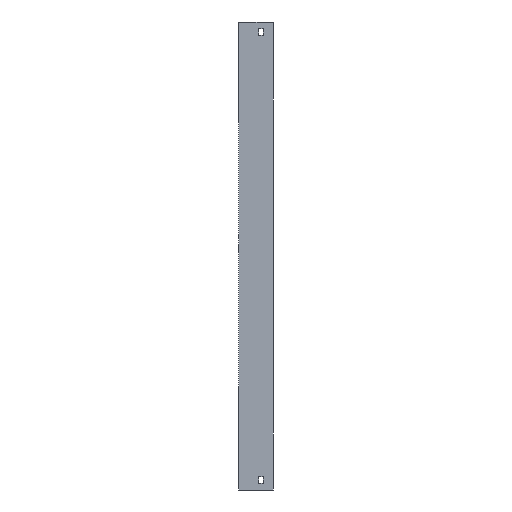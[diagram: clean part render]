
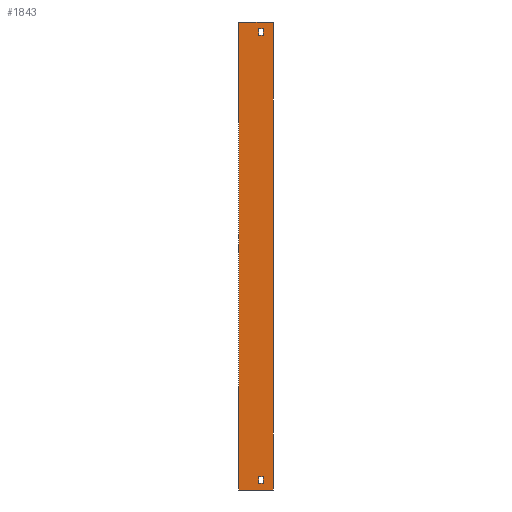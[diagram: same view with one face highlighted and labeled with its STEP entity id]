
A CAD part, left-side view. The second image highlights one B-rep face of the part: STEP entity #1843.
In plain terms, the highlighted planar face has unit normal (-1, 0, 0).
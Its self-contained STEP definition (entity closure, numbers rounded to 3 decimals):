
#22 = CARTESIAN_POINT ( 'NONE',  ( -504., 52., 50. ) ) ;
#23 = LINE ( 'NONE', #1090, #847 ) ;
#42 = VERTEX_POINT ( 'NONE', #65 ) ;
#65 = CARTESIAN_POINT ( 'NONE',  ( -504., 0., -654. ) ) ;
#91 = LINE ( 'NONE', #1545, #1147 ) ;
#92 = CARTESIAN_POINT ( 'NONE',  ( -504., 22., -634. ) ) ;
#109 = VECTOR ( 'NONE', #319, 1000. ) ;
#133 = CARTESIAN_POINT ( 'NONE',  ( -504., 52., -654. ) ) ;
#153 = LINE ( 'NONE', #1669, #1065 ) ;
#198 = DIRECTION ( 'NONE',  ( 0., 0., 1. ) ) ;
#235 = DIRECTION ( 'NONE',  ( 0., 1., 0. ) ) ;
#289 = CARTESIAN_POINT ( 'NONE',  ( -504., 22., -644. ) ) ;
#296 = LINE ( 'NONE', #572, #939 ) ;
#304 = EDGE_CURVE ( 'NONE', #575, #866, #91, .T. ) ;
#305 = CARTESIAN_POINT ( 'NONE',  ( -504., 22., -644. ) ) ;
#318 = AXIS2_PLACEMENT_3D ( 'NONE', #1389, #1725, #514 ) ;
#319 = DIRECTION ( 'NONE',  ( 0., 0., 1. ) ) ;
#320 = EDGE_CURVE ( 'NONE', #415, #42, #1573, .T. ) ;
#342 = VECTOR ( 'NONE', #1185, 1000. ) ;
#344 = FACE_BOUND ( 'NONE', #1521, .T. ) ;
#366 = ORIENTED_EDGE ( 'NONE', *, *, #932, .F. ) ;
#388 = CARTESIAN_POINT ( 'NONE',  ( -504., 22., -644. ) ) ;
#391 = CARTESIAN_POINT ( 'NONE',  ( -504., 22., 30. ) ) ;
#415 = VERTEX_POINT ( 'NONE', #892 ) ;
#425 = ORIENTED_EDGE ( 'NONE', *, *, #1315, .T. ) ;
#429 = VERTEX_POINT ( 'NONE', #782 ) ;
#430 = CARTESIAN_POINT ( 'NONE',  ( -504., 15., -634. ) ) ;
#463 = DIRECTION ( 'NONE',  ( 0., 0., 1. ) ) ;
#468 = ORIENTED_EDGE ( 'NONE', *, *, #484, .T. ) ;
#469 = EDGE_LOOP ( 'NONE', ( #1063, #1312, #1663, #917 ) ) ;
#482 = FACE_BOUND ( 'NONE', #469, .T. ) ;
#484 = EDGE_CURVE ( 'NONE', #655, #877, #153, .T. ) ;
#491 = EDGE_CURVE ( 'NONE', #429, #1624, #941, .T. ) ;
#514 = DIRECTION ( 'NONE',  ( 0., 0., -1. ) ) ;
#572 = CARTESIAN_POINT ( 'NONE',  ( -504., 22., -634. ) ) ;
#573 = LINE ( 'NONE', #289, #342 ) ;
#575 = VERTEX_POINT ( 'NONE', #1576 ) ;
#653 = VERTEX_POINT ( 'NONE', #1916 ) ;
#655 = VERTEX_POINT ( 'NONE', #1178 ) ;
#697 = LINE ( 'NONE', #1262, #1653 ) ;
#756 = ORIENTED_EDGE ( 'NONE', *, *, #1608, .T. ) ;
#761 = DIRECTION ( 'NONE',  ( 0., 0., -1. ) ) ;
#782 = CARTESIAN_POINT ( 'NONE',  ( -504., 52., 50. ) ) ;
#835 = ORIENTED_EDGE ( 'NONE', *, *, #1444, .T. ) ;
#847 = VECTOR ( 'NONE', #1824, 1000. ) ;
#866 = VERTEX_POINT ( 'NONE', #430 ) ;
#872 = CARTESIAN_POINT ( 'NONE',  ( -504., 15., 30. ) ) ;
#877 = VERTEX_POINT ( 'NONE', #872 ) ;
#892 = CARTESIAN_POINT ( 'NONE',  ( -504., 52., -654. ) ) ;
#917 = ORIENTED_EDGE ( 'NONE', *, *, #304, .F. ) ;
#921 = CARTESIAN_POINT ( 'NONE',  ( -504., 22., 40. ) ) ;
#932 = EDGE_CURVE ( 'NONE', #415, #429, #1182, .T. ) ;
#939 = VECTOR ( 'NONE', #1031, 1000. ) ;
#941 = LINE ( 'NONE', #22, #1646 ) ;
#948 = EDGE_CURVE ( 'NONE', #866, #1351, #296, .T. ) ;
#949 = PLANE ( 'NONE',  #318 ) ;
#967 = DIRECTION ( 'NONE',  ( 0., -1., 0. ) ) ;
#1014 = ORIENTED_EDGE ( 'NONE', *, *, #320, .T. ) ;
#1031 = DIRECTION ( 'NONE',  ( 0., 1., 0. ) ) ;
#1063 = ORIENTED_EDGE ( 'NONE', *, *, #1209, .F. ) ;
#1065 = VECTOR ( 'NONE', #761, 1000. ) ;
#1073 = DIRECTION ( 'NONE',  ( 0., 0., 1. ) ) ;
#1090 = CARTESIAN_POINT ( 'NONE',  ( -504., 22., 40. ) ) ;
#1147 = VECTOR ( 'NONE', #198, 1000. ) ;
#1178 = CARTESIAN_POINT ( 'NONE',  ( -504., 15., 40. ) ) ;
#1182 = LINE ( 'NONE', #133, #1310 ) ;
#1185 = DIRECTION ( 'NONE',  ( 0., 0., -1. ) ) ;
#1209 = EDGE_CURVE ( 'NONE', #1437, #575, #1634, .T. ) ;
#1228 = FACE_OUTER_BOUND ( 'NONE', #1709, .T. ) ;
#1237 = LINE ( 'NONE', #1835, #1462 ) ;
#1245 = CARTESIAN_POINT ( 'NONE',  ( -504., 52., -654. ) ) ;
#1262 = CARTESIAN_POINT ( 'NONE',  ( -504., 22., 30. ) ) ;
#1310 = VECTOR ( 'NONE', #1073, 1000. ) ;
#1312 = ORIENTED_EDGE ( 'NONE', *, *, #1531, .F. ) ;
#1315 = EDGE_CURVE ( 'NONE', #42, #1624, #1237, .T. ) ;
#1317 = EDGE_CURVE ( 'NONE', #1845, #653, #1512, .T. ) ;
#1318 = DIRECTION ( 'NONE',  ( 0., -1., 0. ) ) ;
#1351 = VERTEX_POINT ( 'NONE', #92 ) ;
#1389 = CARTESIAN_POINT ( 'NONE',  ( -504., 52., -654. ) ) ;
#1437 = VERTEX_POINT ( 'NONE', #388 ) ;
#1444 = EDGE_CURVE ( 'NONE', #877, #1845, #697, .T. ) ;
#1462 = VECTOR ( 'NONE', #463, 1000. ) ;
#1512 = LINE ( 'NONE', #921, #109 ) ;
#1521 = EDGE_LOOP ( 'NONE', ( #1637, #756, #468, #835 ) ) ;
#1529 = DIRECTION ( 'NONE',  ( 0., -1., 0. ) ) ;
#1531 = EDGE_CURVE ( 'NONE', #1351, #1437, #573, .T. ) ;
#1545 = CARTESIAN_POINT ( 'NONE',  ( -504., 15., -644. ) ) ;
#1573 = LINE ( 'NONE', #1245, #1643 ) ;
#1576 = CARTESIAN_POINT ( 'NONE',  ( -504., 15., -644. ) ) ;
#1608 = EDGE_CURVE ( 'NONE', #653, #655, #23, .T. ) ;
#1615 = ORIENTED_EDGE ( 'NONE', *, *, #491, .F. ) ;
#1624 = VERTEX_POINT ( 'NONE', #1676 ) ;
#1634 = LINE ( 'NONE', #305, #1647 ) ;
#1637 = ORIENTED_EDGE ( 'NONE', *, *, #1317, .T. ) ;
#1643 = VECTOR ( 'NONE', #967, 1000. ) ;
#1646 = VECTOR ( 'NONE', #1529, 1000. ) ;
#1647 = VECTOR ( 'NONE', #1318, 1000. ) ;
#1653 = VECTOR ( 'NONE', #235, 1000. ) ;
#1663 = ORIENTED_EDGE ( 'NONE', *, *, #948, .F. ) ;
#1669 = CARTESIAN_POINT ( 'NONE',  ( -504., 15., 40. ) ) ;
#1676 = CARTESIAN_POINT ( 'NONE',  ( -504., 0., 50. ) ) ;
#1709 = EDGE_LOOP ( 'NONE', ( #425, #1615, #366, #1014 ) ) ;
#1725 = DIRECTION ( 'NONE',  ( 1., 0., 0. ) ) ;
#1824 = DIRECTION ( 'NONE',  ( 0., -1., 0. ) ) ;
#1835 = CARTESIAN_POINT ( 'NONE',  ( -504., 0., -654. ) ) ;
#1843 = ADVANCED_FACE ( 'NONE', ( #1228, #344, #482 ), #949, .F. ) ;
#1845 = VERTEX_POINT ( 'NONE', #391 ) ;
#1916 = CARTESIAN_POINT ( 'NONE',  ( -504., 22., 40. ) ) ;
